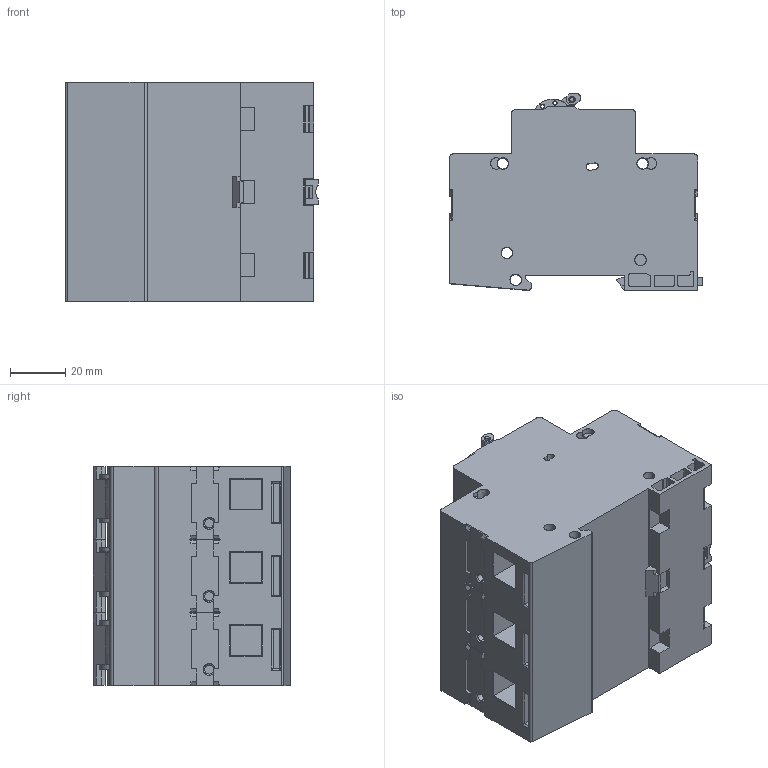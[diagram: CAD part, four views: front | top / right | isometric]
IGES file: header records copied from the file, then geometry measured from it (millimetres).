
Start section: SolidWorks IGES file using analytic representation for surfaces
Global section: file name: U:\14_RD\05_Technical_office\04_Office\Hrdinova\3D modely - IGES\Minia\AST-3.IGS; native system: SolidWorks 2011; preprocessor: SolidWorks 2011; author: adhrja3; date: 170615.071318; units: millimetre
Bounding box: 91.7 x 71.47 x 79.5 mm (x, y, z)
Surface area: 54048.8 mm2 (no closed solid volume)
Topology: 0 solids, 0 shells, 1037 faces, 11957 edges, 11957 vertices
Faces by surface type: bspline 651, revolution 386
